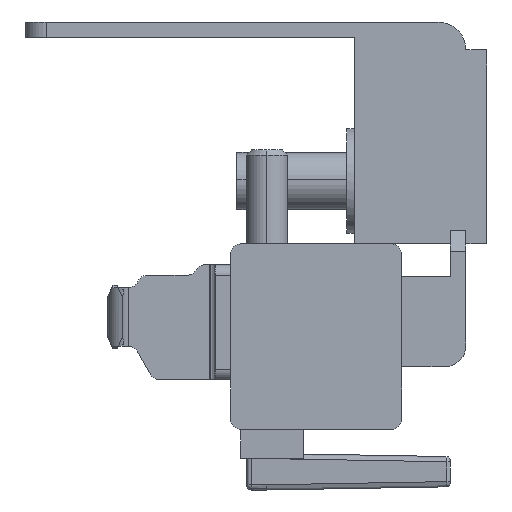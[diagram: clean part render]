
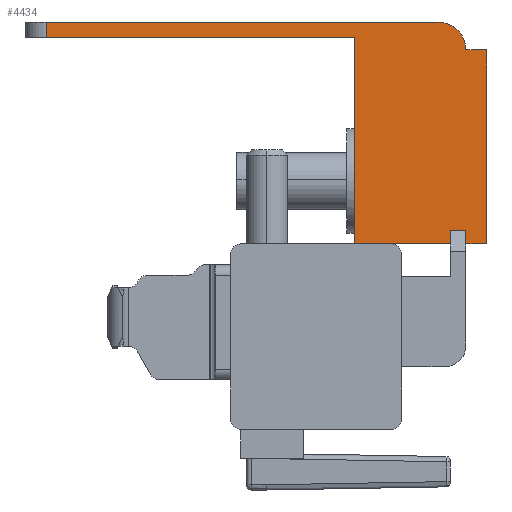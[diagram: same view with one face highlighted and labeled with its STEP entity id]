
A CAD part, left-side view. The second image highlights one B-rep face of the part: STEP entity #4434.
In plain terms, the highlighted planar face has unit normal (-1, 0, 0).
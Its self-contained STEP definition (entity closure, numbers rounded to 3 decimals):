
#82 = VECTOR ( 'NONE', #1756, 1000. ) ;
#128 = ORIENTED_EDGE ( 'NONE', *, *, #3245, .F. ) ;
#238 = LINE ( 'NONE', #4681, #3699 ) ;
#240 = AXIS2_PLACEMENT_3D ( 'NONE', #1097, #4217, #1550 ) ;
#360 = VERTEX_POINT ( 'NONE', #1725 ) ;
#371 = LINE ( 'NONE', #5610, #2475 ) ;
#377 = CARTESIAN_POINT ( 'NONE',  ( -356., -17.713, -1.651 ) ) ;
#394 = ORIENTED_EDGE ( 'NONE', *, *, #3956, .F. ) ;
#414 = CARTESIAN_POINT ( 'NONE',  ( -356., -17.713, -1.651 ) ) ;
#451 = LINE ( 'NONE', #2236, #1391 ) ;
#524 = ORIENTED_EDGE ( 'NONE', *, *, #1274, .F. ) ;
#754 = CARTESIAN_POINT ( 'NONE',  ( -356., -30.333, -1.651 ) ) ;
#879 = DIRECTION ( 'NONE',  ( 0., 0., 1. ) ) ;
#1048 = EDGE_CURVE ( 'NONE', #5586, #1521, #5300, .T. ) ;
#1088 = LINE ( 'NONE', #1204, #3308 ) ;
#1097 = CARTESIAN_POINT ( 'NONE',  ( -356., -29.063, 15.779 ) ) ;
#1182 = LINE ( 'NONE', #754, #5753 ) ;
#1204 = CARTESIAN_POINT ( 'NONE',  ( -356., -30.333, 16.879 ) ) ;
#1250 = DIRECTION ( 'NONE',  ( 0., 0., 1. ) ) ;
#1274 = EDGE_CURVE ( 'NONE', #1376, #1821, #5503, .T. ) ;
#1337 = VERTEX_POINT ( 'NONE', #3537 ) ;
#1376 = VERTEX_POINT ( 'NONE', #5399 ) ;
#1391 = VECTOR ( 'NONE', #3123, 1000. ) ;
#1459 = CARTESIAN_POINT ( 'NONE',  ( -356., -17.713, -1.651 ) ) ;
#1470 = CARTESIAN_POINT ( 'NONE',  ( -356., -30.333, -1.651 ) ) ;
#1521 = VERTEX_POINT ( 'NONE', #1470 ) ;
#1550 = DIRECTION ( 'NONE',  ( 0., 1., 0. ) ) ;
#1633 = CARTESIAN_POINT ( 'NONE',  ( -356., -26.863, -1.651 ) ) ;
#1641 = LINE ( 'NONE', #1459, #3741 ) ;
#1651 = DIRECTION ( 'NONE',  ( 0., 0., -1. ) ) ;
#1663 = CARTESIAN_POINT ( 'NONE',  ( -356., -28.333, -1.651 ) ) ;
#1683 = VERTEX_POINT ( 'NONE', #4031 ) ;
#1725 = CARTESIAN_POINT ( 'NONE',  ( -356., -26.863, -1.651 ) ) ;
#1754 = EDGE_CURVE ( 'NONE', #2961, #4929, #4723, .T. ) ;
#1756 = DIRECTION ( 'NONE',  ( 0., -1., 0. ) ) ;
#1763 = VECTOR ( 'NONE', #2673, 1000. ) ;
#1821 = VERTEX_POINT ( 'NONE', #3057 ) ;
#1877 = ORIENTED_EDGE ( 'NONE', *, *, #4716, .T. ) ;
#1913 = EDGE_CURVE ( 'NONE', #5586, #4194, #1088, .T. ) ;
#1915 = DIRECTION ( 'NONE',  ( 0., -1., 0. ) ) ;
#2053 = CARTESIAN_POINT ( 'NONE',  ( -356., 11.767, 19.549 ) ) ;
#2236 = CARTESIAN_POINT ( 'NONE',  ( -356., -29.063, 18.079 ) ) ;
#2271 = EDGE_CURVE ( 'NONE', #4929, #360, #1641, .T. ) ;
#2273 = DIRECTION ( 'NONE',  ( -1., 0., 0. ) ) ;
#2290 = CARTESIAN_POINT ( 'NONE',  ( -356., 11.767, 17.779 ) ) ;
#2356 = VECTOR ( 'NONE', #1651, 1000. ) ;
#2475 = VECTOR ( 'NONE', #2499, 1000. ) ;
#2499 = DIRECTION ( 'NONE',  ( 0., 1., 0. ) ) ;
#2673 = DIRECTION ( 'NONE',  ( 0., 0., -1. ) ) ;
#2692 = VECTOR ( 'NONE', #879, 1000. ) ;
#2716 = CARTESIAN_POINT ( 'NONE',  ( -356., -17.713, 18.079 ) ) ;
#2724 = DIRECTION ( 'NONE',  ( 0., 0., -1. ) ) ;
#2755 = CARTESIAN_POINT ( 'NONE',  ( -356., -17.713, -1.651 ) ) ;
#2877 = EDGE_CURVE ( 'NONE', #4194, #1337, #4707, .T. ) ;
#2961 = VERTEX_POINT ( 'NONE', #2755 ) ;
#2979 = DIRECTION ( 'NONE',  ( 0., 1., 0. ) ) ;
#3003 = ORIENTED_EDGE ( 'NONE', *, *, #1754, .T. ) ;
#3044 = VECTOR ( 'NONE', #2724, 1000. ) ;
#3057 = CARTESIAN_POINT ( 'NONE',  ( -356., -28.333, -0.361 ) ) ;
#3123 = DIRECTION ( 'NONE',  ( 0., 1., 0. ) ) ;
#3131 = VECTOR ( 'NONE', #1250, 1000. ) ;
#3191 = ORIENTED_EDGE ( 'NONE', *, *, #1913, .T. ) ;
#3245 = EDGE_CURVE ( 'NONE', #1683, #360, #3703, .T. ) ;
#3249 = EDGE_CURVE ( 'NONE', #1521, #1376, #1182, .T. ) ;
#3308 = VECTOR ( 'NONE', #2979, 1000. ) ;
#3438 = EDGE_CURVE ( 'NONE', #2961, #5532, #4039, .T. ) ;
#3460 = FACE_OUTER_BOUND ( 'NONE', #4465, .T. ) ;
#3537 = CARTESIAN_POINT ( 'NONE',  ( -356., -25.663, 19.549 ) ) ;
#3573 = AXIS2_PLACEMENT_3D ( 'NONE', #4958, #2273, #5381 ) ;
#3699 = VECTOR ( 'NONE', #5134, 1000. ) ;
#3703 = LINE ( 'NONE', #1633, #2356 ) ;
#3711 = EDGE_CURVE ( 'NONE', #4186, #1337, #238, .T. ) ;
#3741 = VECTOR ( 'NONE', #1915, 1000. ) ;
#3773 = PLANE ( 'NONE',  #240 ) ;
#3827 = ORIENTED_EDGE ( 'NONE', *, *, #1048, .F. ) ;
#3873 = VERTEX_POINT ( 'NONE', #5233 ) ;
#3891 = DIRECTION ( 'NONE',  ( 0., 1., 0. ) ) ;
#3956 = EDGE_CURVE ( 'NONE', #5532, #3873, #451, .T. ) ;
#4017 = ORIENTED_EDGE ( 'NONE', *, *, #2271, .T. ) ;
#4031 = CARTESIAN_POINT ( 'NONE',  ( -356., -26.863, -0.361 ) ) ;
#4039 = LINE ( 'NONE', #414, #2692 ) ;
#4186 = VERTEX_POINT ( 'NONE', #2053 ) ;
#4194 = VERTEX_POINT ( 'NONE', #4737 ) ;
#4217 = DIRECTION ( 'NONE',  ( 1., 0., 0. ) ) ;
#4252 = LINE ( 'NONE', #2290, #3044 ) ;
#4434 = ADVANCED_FACE ( 'NONE', ( #3460 ), #3773, .F. ) ;
#4465 = EDGE_LOOP ( 'NONE', ( #5323, #524, #4907, #3827, #3191, #5582, #4982, #1877, #394, #4559, #3003, #4017, #128 ) ) ;
#4559 = ORIENTED_EDGE ( 'NONE', *, *, #3438, .F. ) ;
#4681 = CARTESIAN_POINT ( 'NONE',  ( -356., 14.667, 19.549 ) ) ;
#4707 = CIRCLE ( 'NONE', #3573, 2.67 ) ;
#4716 = EDGE_CURVE ( 'NONE', #4186, #3873, #4252, .T. ) ;
#4723 = LINE ( 'NONE', #377, #82 ) ;
#4737 = CARTESIAN_POINT ( 'NONE',  ( -356., -28.333, 16.879 ) ) ;
#4777 = CARTESIAN_POINT ( 'NONE',  ( -356., -30.333, 16.879 ) ) ;
#4907 = ORIENTED_EDGE ( 'NONE', *, *, #3249, .F. ) ;
#4929 = VERTEX_POINT ( 'NONE', #5161 ) ;
#4958 = CARTESIAN_POINT ( 'NONE',  ( -356., -25.663, 16.879 ) ) ;
#4982 = ORIENTED_EDGE ( 'NONE', *, *, #3711, .F. ) ;
#4992 = CARTESIAN_POINT ( 'NONE',  ( -356., -30.333, 16.879 ) ) ;
#5134 = DIRECTION ( 'NONE',  ( 0., -1., 0. ) ) ;
#5161 = CARTESIAN_POINT ( 'NONE',  ( -356., -21.203, -1.651 ) ) ;
#5233 = CARTESIAN_POINT ( 'NONE',  ( -356., 11.767, 18.079 ) ) ;
#5300 = LINE ( 'NONE', #4777, #1763 ) ;
#5323 = ORIENTED_EDGE ( 'NONE', *, *, #5691, .F. ) ;
#5381 = DIRECTION ( 'NONE',  ( 0., 0., -1. ) ) ;
#5399 = CARTESIAN_POINT ( 'NONE',  ( -356., -28.333, -1.651 ) ) ;
#5503 = LINE ( 'NONE', #1663, #3131 ) ;
#5532 = VERTEX_POINT ( 'NONE', #2716 ) ;
#5582 = ORIENTED_EDGE ( 'NONE', *, *, #2877, .T. ) ;
#5586 = VERTEX_POINT ( 'NONE', #4992 ) ;
#5610 = CARTESIAN_POINT ( 'NONE',  ( -356., -26.863, -0.361 ) ) ;
#5691 = EDGE_CURVE ( 'NONE', #1821, #1683, #371, .T. ) ;
#5753 = VECTOR ( 'NONE', #3891, 1000. ) ;
